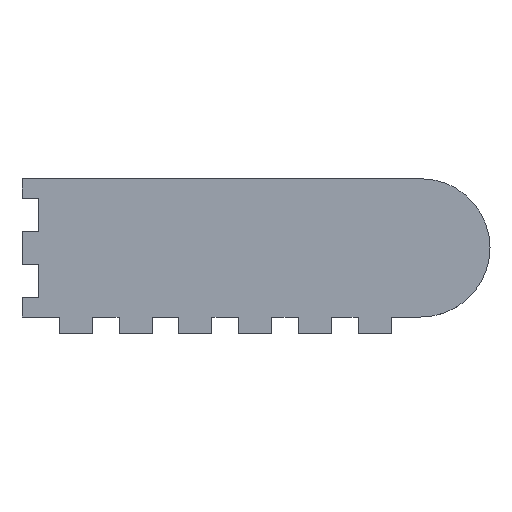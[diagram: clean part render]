
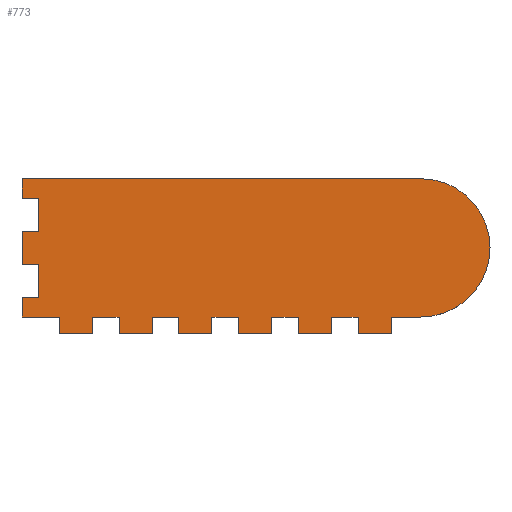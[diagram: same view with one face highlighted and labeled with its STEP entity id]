
A CAD part, top view. The second image highlights one B-rep face of the part: STEP entity #773.
In plain terms, the highlighted planar face has unit normal (0, 0, 1).
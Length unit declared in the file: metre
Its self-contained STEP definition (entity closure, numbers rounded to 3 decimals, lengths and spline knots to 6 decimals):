
#12=CIRCLE('',#795,0.0115);
#195=ORIENTED_EDGE('',*,*,#231,.F.);
#196=ORIENTED_EDGE('',*,*,#337,.F.);
#197=ORIENTED_EDGE('',*,*,#334,.T.);
#198=ORIENTED_EDGE('',*,*,#331,.F.);
#199=ORIENTED_EDGE('',*,*,#328,.T.);
#200=ORIENTED_EDGE('',*,*,#325,.F.);
#201=ORIENTED_EDGE('',*,*,#322,.F.);
#202=ORIENTED_EDGE('',*,*,#319,.T.);
#203=ORIENTED_EDGE('',*,*,#316,.T.);
#204=ORIENTED_EDGE('',*,*,#313,.F.);
#205=ORIENTED_EDGE('',*,*,#310,.F.);
#206=ORIENTED_EDGE('',*,*,#307,.T.);
#207=ORIENTED_EDGE('',*,*,#304,.T.);
#208=ORIENTED_EDGE('',*,*,#301,.F.);
#209=ORIENTED_EDGE('',*,*,#298,.F.);
#210=ORIENTED_EDGE('',*,*,#295,.T.);
#211=ORIENTED_EDGE('',*,*,#292,.T.);
#212=ORIENTED_EDGE('',*,*,#289,.F.);
#213=ORIENTED_EDGE('',*,*,#286,.F.);
#214=ORIENTED_EDGE('',*,*,#283,.T.);
#215=ORIENTED_EDGE('',*,*,#280,.T.);
#216=ORIENTED_EDGE('',*,*,#277,.F.);
#217=ORIENTED_EDGE('',*,*,#274,.F.);
#218=ORIENTED_EDGE('',*,*,#271,.T.);
#219=ORIENTED_EDGE('',*,*,#268,.T.);
#220=ORIENTED_EDGE('',*,*,#265,.F.);
#221=ORIENTED_EDGE('',*,*,#262,.F.);
#222=ORIENTED_EDGE('',*,*,#259,.T.);
#223=ORIENTED_EDGE('',*,*,#256,.T.);
#224=ORIENTED_EDGE('',*,*,#253,.F.);
#225=ORIENTED_EDGE('',*,*,#250,.T.);
#226=ORIENTED_EDGE('',*,*,#247,.F.);
#227=ORIENTED_EDGE('',*,*,#244,.F.);
#228=ORIENTED_EDGE('',*,*,#241,.T.);
#229=ORIENTED_EDGE('',*,*,#238,.T.);
#230=ORIENTED_EDGE('',*,*,#235,.F.);
#231=EDGE_CURVE('',#339,#340,#411,.T.);
#235=EDGE_CURVE('',#340,#343,#415,.T.);
#238=EDGE_CURVE('',#345,#343,#418,.T.);
#241=EDGE_CURVE('',#347,#345,#421,.T.);
#244=EDGE_CURVE('',#347,#349,#424,.T.);
#247=EDGE_CURVE('',#349,#351,#427,.T.);
#250=EDGE_CURVE('',#353,#351,#430,.T.);
#253=EDGE_CURVE('',#353,#355,#12,.T.);
#256=EDGE_CURVE('',#357,#355,#434,.T.);
#259=EDGE_CURVE('',#359,#357,#437,.T.);
#262=EDGE_CURVE('',#359,#361,#440,.T.);
#265=EDGE_CURVE('',#361,#363,#443,.T.);
#268=EDGE_CURVE('',#365,#363,#446,.T.);
#271=EDGE_CURVE('',#367,#365,#449,.T.);
#274=EDGE_CURVE('',#367,#369,#452,.T.);
#277=EDGE_CURVE('',#369,#371,#455,.T.);
#280=EDGE_CURVE('',#373,#371,#458,.T.);
#283=EDGE_CURVE('',#375,#373,#461,.T.);
#286=EDGE_CURVE('',#375,#377,#464,.T.);
#289=EDGE_CURVE('',#377,#379,#467,.T.);
#292=EDGE_CURVE('',#381,#379,#470,.T.);
#295=EDGE_CURVE('',#383,#381,#473,.T.);
#298=EDGE_CURVE('',#383,#385,#476,.T.);
#301=EDGE_CURVE('',#385,#387,#479,.T.);
#304=EDGE_CURVE('',#389,#387,#482,.T.);
#307=EDGE_CURVE('',#391,#389,#485,.T.);
#310=EDGE_CURVE('',#391,#393,#488,.T.);
#313=EDGE_CURVE('',#393,#395,#491,.T.);
#316=EDGE_CURVE('',#397,#395,#494,.T.);
#319=EDGE_CURVE('',#399,#397,#497,.T.);
#322=EDGE_CURVE('',#399,#401,#500,.T.);
#325=EDGE_CURVE('',#401,#403,#503,.T.);
#328=EDGE_CURVE('',#405,#403,#506,.T.);
#331=EDGE_CURVE('',#405,#407,#509,.T.);
#334=EDGE_CURVE('',#409,#407,#512,.T.);
#337=EDGE_CURVE('',#409,#339,#515,.T.);
#339=VERTEX_POINT('',#1018);
#340=VERTEX_POINT('',#1019);
#343=VERTEX_POINT('',#1027);
#345=VERTEX_POINT('',#1033);
#347=VERTEX_POINT('',#1039);
#349=VERTEX_POINT('',#1045);
#351=VERTEX_POINT('',#1051);
#353=VERTEX_POINT('',#1057);
#355=VERTEX_POINT('',#1063);
#357=VERTEX_POINT('',#1069);
#359=VERTEX_POINT('',#1075);
#361=VERTEX_POINT('',#1081);
#363=VERTEX_POINT('',#1087);
#365=VERTEX_POINT('',#1093);
#367=VERTEX_POINT('',#1099);
#369=VERTEX_POINT('',#1105);
#371=VERTEX_POINT('',#1111);
#373=VERTEX_POINT('',#1117);
#375=VERTEX_POINT('',#1123);
#377=VERTEX_POINT('',#1129);
#379=VERTEX_POINT('',#1135);
#381=VERTEX_POINT('',#1141);
#383=VERTEX_POINT('',#1147);
#385=VERTEX_POINT('',#1153);
#387=VERTEX_POINT('',#1159);
#389=VERTEX_POINT('',#1165);
#391=VERTEX_POINT('',#1171);
#393=VERTEX_POINT('',#1177);
#395=VERTEX_POINT('',#1183);
#397=VERTEX_POINT('',#1189);
#399=VERTEX_POINT('',#1195);
#401=VERTEX_POINT('',#1201);
#403=VERTEX_POINT('',#1207);
#405=VERTEX_POINT('',#1213);
#407=VERTEX_POINT('',#1219);
#409=VERTEX_POINT('',#1225);
#411=LINE('',#1017,#517);
#415=LINE('',#1026,#521);
#418=LINE('',#1032,#524);
#421=LINE('',#1038,#527);
#424=LINE('',#1044,#530);
#427=LINE('',#1050,#533);
#430=LINE('',#1056,#536);
#434=LINE('',#1068,#540);
#437=LINE('',#1074,#543);
#440=LINE('',#1080,#546);
#443=LINE('',#1086,#549);
#446=LINE('',#1092,#552);
#449=LINE('',#1098,#555);
#452=LINE('',#1104,#558);
#455=LINE('',#1110,#561);
#458=LINE('',#1116,#564);
#461=LINE('',#1122,#567);
#464=LINE('',#1128,#570);
#467=LINE('',#1134,#573);
#470=LINE('',#1140,#576);
#473=LINE('',#1146,#579);
#476=LINE('',#1152,#582);
#479=LINE('',#1158,#585);
#482=LINE('',#1164,#588);
#485=LINE('',#1170,#591);
#488=LINE('',#1176,#594);
#491=LINE('',#1182,#597);
#494=LINE('',#1188,#600);
#497=LINE('',#1194,#603);
#500=LINE('',#1200,#606);
#503=LINE('',#1206,#609);
#506=LINE('',#1212,#612);
#509=LINE('',#1218,#615);
#512=LINE('',#1224,#618);
#515=LINE('',#1230,#621);
#517=VECTOR('',#831,1.);
#521=VECTOR('',#837,1.);
#524=VECTOR('',#842,1.);
#527=VECTOR('',#847,1.);
#530=VECTOR('',#852,1.);
#533=VECTOR('',#857,1.);
#536=VECTOR('',#862,1.);
#540=VECTOR('',#874,1.);
#543=VECTOR('',#879,1.);
#546=VECTOR('',#884,1.);
#549=VECTOR('',#889,1.);
#552=VECTOR('',#894,1.);
#555=VECTOR('',#899,1.);
#558=VECTOR('',#904,1.);
#561=VECTOR('',#909,1.);
#564=VECTOR('',#914,1.);
#567=VECTOR('',#919,1.);
#570=VECTOR('',#924,1.);
#573=VECTOR('',#929,1.);
#576=VECTOR('',#934,1.);
#579=VECTOR('',#939,1.);
#582=VECTOR('',#944,1.);
#585=VECTOR('',#949,1.);
#588=VECTOR('',#954,1.);
#591=VECTOR('',#959,1.);
#594=VECTOR('',#964,1.);
#597=VECTOR('',#969,1.);
#600=VECTOR('',#974,1.);
#603=VECTOR('',#979,1.);
#606=VECTOR('',#984,1.);
#609=VECTOR('',#989,1.);
#612=VECTOR('',#994,1.);
#615=VECTOR('',#999,1.);
#618=VECTOR('',#1004,1.);
#621=VECTOR('',#1009,1.);
#660=EDGE_LOOP('',(#195,#196,#197,#198,#199,#200,#201,#202,#203,#204,#205,
#206,#207,#208,#209,#210,#211,#212,#213,#214,#215,#216,#217,#218,#219,#220,
#221,#222,#223,#224,#225,#226,#227,#228,#229,#230));
#698=FACE_BOUND('',#660,.T.);
#735=PLANE('',#826);
#773=ADVANCED_FACE('',(#698),#735,.F.);
#795=AXIS2_PLACEMENT_3D('',#1062,#867,#868);
#826=AXIS2_PLACEMENT_3D('',#1233,#1013,#1014);
#831=DIRECTION('',(-1.,0.,0.));
#837=DIRECTION('',(0.,1.,0.));
#842=DIRECTION('',(-1.,0.,0.));
#847=DIRECTION('',(0.,-1.,0.));
#852=DIRECTION('',(-1.,0.,0.));
#857=DIRECTION('',(0.,1.,0.));
#862=DIRECTION('',(-1.,0.,0.));
#867=DIRECTION('',(0.,0.,-1.));
#868=DIRECTION('',(0.,1.,0.));
#874=DIRECTION('',(1.,0.,0.));
#879=DIRECTION('',(0.,1.,0.));
#884=DIRECTION('',(-1.,0.,0.));
#889=DIRECTION('',(0.,1.,0.));
#894=DIRECTION('',(1.,0.,0.));
#899=DIRECTION('',(0.,1.,0.));
#904=DIRECTION('',(-1.,0.,0.));
#909=DIRECTION('',(0.,1.,0.));
#914=DIRECTION('',(1.,0.,0.));
#919=DIRECTION('',(0.,1.,0.));
#924=DIRECTION('',(-1.,0.,0.));
#929=DIRECTION('',(0.,1.,0.));
#934=DIRECTION('',(1.,0.,0.));
#939=DIRECTION('',(0.,1.,0.));
#944=DIRECTION('',(-1.,0.,0.));
#949=DIRECTION('',(0.,1.,0.));
#954=DIRECTION('',(1.,0.,0.));
#959=DIRECTION('',(0.,1.,0.));
#964=DIRECTION('',(-1.,0.,0.));
#969=DIRECTION('',(0.,1.,0.));
#974=DIRECTION('',(1.,0.,0.));
#979=DIRECTION('',(0.,1.,0.));
#984=DIRECTION('',(-1.,0.,0.));
#989=DIRECTION('',(0.,1.,0.));
#994=DIRECTION('',(1.,0.,0.));
#999=DIRECTION('',(0.,1.,0.));
#1004=DIRECTION('',(-1.,0.,0.));
#1009=DIRECTION('',(0.,1.,0.));
#1013=DIRECTION('',(0.,0.,-1.));
#1014=DIRECTION('',(-1.,0.,0.));
#1017=CARTESIAN_POINT('',(0.0064,0.01145,-0.1037));
#1018=CARTESIAN_POINT('',(0.0064,0.01145,-0.1037));
#1019=CARTESIAN_POINT('',(0.0037,0.01145,-0.1037));
#1026=CARTESIAN_POINT('',(0.0037,0.0142,-0.1037));
#1027=CARTESIAN_POINT('',(0.0037,0.01695,-0.1037));
#1032=CARTESIAN_POINT('',(0.0064,0.01695,-0.1037));
#1033=CARTESIAN_POINT('',(0.0064,0.01695,-0.1037));
#1038=CARTESIAN_POINT('',(0.0064,0.0197,-0.1037));
#1039=CARTESIAN_POINT('',(0.0064,0.02245,-0.1037));
#1044=CARTESIAN_POINT('',(0.00505,0.02245,-0.1037));
#1045=CARTESIAN_POINT('',(0.0037,0.02245,-0.1037));
#1050=CARTESIAN_POINT('',(0.0037,0.024075,-0.1037));
#1051=CARTESIAN_POINT('',(0.0037,0.0257,-0.1037));
#1056=CARTESIAN_POINT('',(0.036864,0.0257,-0.1037));
#1057=CARTESIAN_POINT('',(0.070027,0.0257,-0.1037));
#1062=CARTESIAN_POINT('',(0.070027,0.0142,-0.1037));
#1063=CARTESIAN_POINT('',(0.070027,0.0027,-0.1037));
#1068=CARTESIAN_POINT('',(0.067564,0.0027,-0.1037));
#1069=CARTESIAN_POINT('',(0.0651,0.0027,-0.1037));
#1074=CARTESIAN_POINT('',(0.0651,0.00135,-0.1037));
#1075=CARTESIAN_POINT('',(0.0651,0.,-0.1037));
#1080=CARTESIAN_POINT('',(0.06235,0.,-0.1037));
#1081=CARTESIAN_POINT('',(0.0596,0.,-0.1037));
#1086=CARTESIAN_POINT('',(0.0596,0.00135,-0.1037));
#1087=CARTESIAN_POINT('',(0.0596,0.0027,-0.1037));
#1092=CARTESIAN_POINT('',(0.05738,0.0027,-0.1037));
#1093=CARTESIAN_POINT('',(0.05516,0.0027,-0.1037));
#1098=CARTESIAN_POINT('',(0.05516,0.00135,-0.1037));
#1099=CARTESIAN_POINT('',(0.05516,0.,-0.1037));
#1104=CARTESIAN_POINT('',(0.05241,0.,-0.1037));
#1105=CARTESIAN_POINT('',(0.04966,0.,-0.1037));
#1110=CARTESIAN_POINT('',(0.04966,0.00135,-0.1037));
#1111=CARTESIAN_POINT('',(0.04966,0.0027,-0.1037));
#1116=CARTESIAN_POINT('',(0.04744,0.0027,-0.1037));
#1117=CARTESIAN_POINT('',(0.04522,0.0027,-0.1037));
#1122=CARTESIAN_POINT('',(0.04522,0.00135,-0.1037));
#1123=CARTESIAN_POINT('',(0.04522,0.,-0.1037));
#1128=CARTESIAN_POINT('',(0.04247,0.,-0.1037));
#1129=CARTESIAN_POINT('',(0.03972,0.,-0.1037));
#1134=CARTESIAN_POINT('',(0.03972,0.00135,-0.1037));
#1135=CARTESIAN_POINT('',(0.03972,0.0027,-0.1037));
#1140=CARTESIAN_POINT('',(0.0375,0.0027,-0.1037));
#1141=CARTESIAN_POINT('',(0.03528,0.0027,-0.1037));
#1146=CARTESIAN_POINT('',(0.03528,0.00135,-0.1037));
#1147=CARTESIAN_POINT('',(0.03528,0.,-0.1037));
#1152=CARTESIAN_POINT('',(0.03253,0.,-0.1037));
#1153=CARTESIAN_POINT('',(0.02978,0.,-0.1037));
#1158=CARTESIAN_POINT('',(0.02978,0.00135,-0.1037));
#1159=CARTESIAN_POINT('',(0.02978,0.0027,-0.1037));
#1164=CARTESIAN_POINT('',(0.02756,0.0027,-0.1037));
#1165=CARTESIAN_POINT('',(0.02534,0.0027,-0.1037));
#1170=CARTESIAN_POINT('',(0.02534,0.00135,-0.1037));
#1171=CARTESIAN_POINT('',(0.02534,0.,-0.1037));
#1176=CARTESIAN_POINT('',(0.02259,0.,-0.1037));
#1177=CARTESIAN_POINT('',(0.01984,0.,-0.1037));
#1182=CARTESIAN_POINT('',(0.01984,0.00135,-0.1037));
#1183=CARTESIAN_POINT('',(0.01984,0.0027,-0.1037));
#1188=CARTESIAN_POINT('',(0.01762,0.0027,-0.1037));
#1189=CARTESIAN_POINT('',(0.0154,0.0027,-0.1037));
#1194=CARTESIAN_POINT('',(0.0154,0.00135,-0.1037));
#1195=CARTESIAN_POINT('',(0.0154,0.,-0.1037));
#1200=CARTESIAN_POINT('',(0.01265,0.,-0.1037));
#1201=CARTESIAN_POINT('',(0.0099,0.,-0.1037));
#1206=CARTESIAN_POINT('',(0.0099,0.00135,-0.1037));
#1207=CARTESIAN_POINT('',(0.0099,0.0027,-0.1037));
#1212=CARTESIAN_POINT('',(0.0068,0.0027,-0.1037));
#1213=CARTESIAN_POINT('',(0.0037,0.0027,-0.1037));
#1218=CARTESIAN_POINT('',(0.0037,0.004325,-0.1037));
#1219=CARTESIAN_POINT('',(0.0037,0.00595,-0.1037));
#1224=CARTESIAN_POINT('',(0.00505,0.00595,-0.1037));
#1225=CARTESIAN_POINT('',(0.0064,0.00595,-0.1037));
#1230=CARTESIAN_POINT('',(0.0064,0.0087,-0.1037));
#1233=CARTESIAN_POINT('',(0.042614,0.01285,-0.1037));
